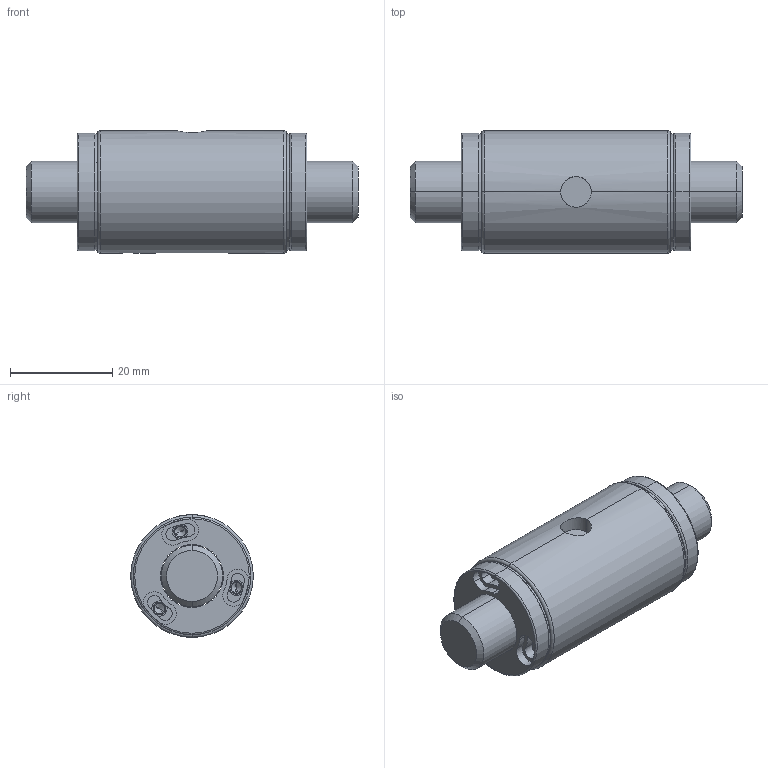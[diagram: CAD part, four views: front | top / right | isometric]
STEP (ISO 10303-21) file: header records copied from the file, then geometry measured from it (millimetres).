
FILE_DESCRIPTION (( 'STEP AP203' ), '1' );
FILE_NAME ('SCHR01210B1-C.STEP', '2020-06-17T08:41:39', ( '' ), ( '' ), 'SwSTEP 2.0', 'SolidWorks 2013', '' );
FILE_SCHEMA (( 'CONFIG_CONTROL_DESIGN' ));
Length unit declared in the file: millimetre
Products named in the file (1): SCHR01210B1-C
Bounding box: 65 x 24 x 24 mm (x, y, z)
Volume: 20700.1 mm3; surface area: 9258 mm2
Topology: 2 solids, 2 shells, 203 faces, 484 edges, 297 vertices
Faces by surface type: cylinder 113, plane 52, cone 28, torus 10
Entity records: 6174 total; most frequent: CARTESIAN_POINT 1191, DIRECTION 1181, ORIENTED_EDGE 944, AXIS2_PLACEMENT_3D 515, EDGE_CURVE 472, CIRCLE 311, VERTEX_POINT 297, EDGE_LOOP 231
